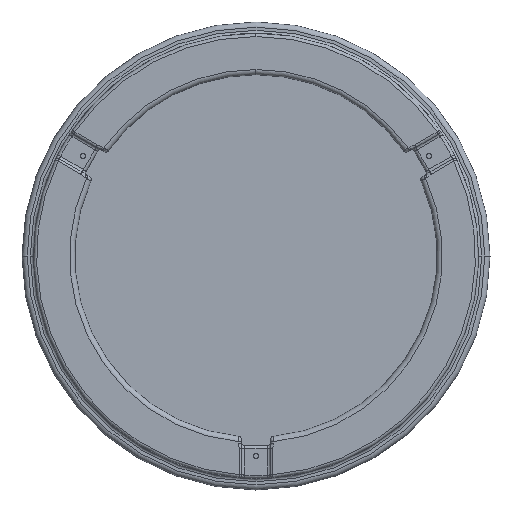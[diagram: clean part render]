
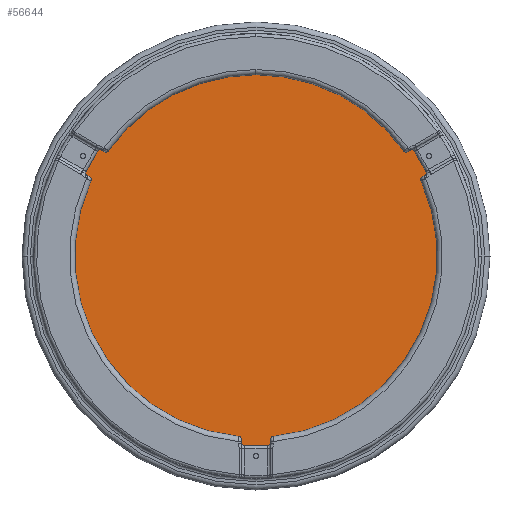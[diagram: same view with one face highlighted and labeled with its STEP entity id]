
A CAD part, front view. The second image highlights one B-rep face of the part: STEP entity #56644.
In plain terms, the highlighted planar face has unit normal (0, -1, 0).
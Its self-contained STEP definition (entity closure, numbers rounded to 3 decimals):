
#6601 = DIRECTION ( 'NONE',  ( -0.547, 0., 0.837 ) ) ;
#7088 = EDGE_LOOP ( 'NONE', ( #17147, #192539 ) ) ;
#8787 = CARTESIAN_POINT ( 'NONE',  ( -71.142, 703.967, 955.719 ) ) ;
#10492 = VERTEX_POINT ( 'NONE', #8787 ) ;
#13807 = CARTESIAN_POINT ( 'NONE',  ( -68.407, 703.967, 951.533 ) ) ;
#14340 = DIRECTION ( 'NONE',  ( 0., -1., 0. ) ) ;
#17147 = ORIENTED_EDGE ( 'NONE', *, *, #64092, .F. ) ;
#25039 = DIRECTION ( 'NONE',  ( -0.547, 0., 0.837 ) ) ;
#25041 = CARTESIAN_POINT ( 'NONE',  ( 601.241, 703.967, 990.644 ) ) ;
#25396 = DIRECTION ( 'NONE',  ( 0., -1., 0. ) ) ;
#29640 = CARTESIAN_POINT ( 'NONE',  ( 276.42, 703.967, 778.43 ) ) ;
#35158 = CARTESIAN_POINT ( 'NONE',  ( 276.42, 703.967, 778.43 ) ) ;
#44147 = EDGE_CURVE ( 'NONE', #129273, #100778, #182263, .T. ) ;
#48058 = DIRECTION ( 'NONE',  ( 0., -1., 0. ) ) ;
#53263 = CARTESIAN_POINT ( 'NONE',  ( -69.774, 703.967, 953.626 ) ) ;
#56644 = ADVANCED_FACE ( 'NONE', ( #147631, #256143, #185271, #101454 ), #163548, .T. ) ;
#57843 = AXIS2_PLACEMENT_3D ( 'NONE', #261861, #242991, #175024 ) ;
#64092 = EDGE_CURVE ( 'NONE', #219389, #69468, #245115, .T. ) ;
#64869 = CARTESIAN_POINT ( 'NONE',  ( 297.792, 703.967, 391.019 ) ) ;
#69468 = VERTEX_POINT ( 'NONE', #124527 ) ;
#69685 = AXIS2_PLACEMENT_3D ( 'NONE', #222793, #48058, #25039 ) ;
#71222 = AXIS2_PLACEMENT_3D ( 'NONE', #273727, #25396, #156692 ) ;
#74873 = DIRECTION ( 'NONE',  ( 0., -1., 0. ) ) ;
#84910 = DIRECTION ( 'NONE',  ( -0.547, 0., 0.837 ) ) ;
#86739 = EDGE_LOOP ( 'NONE', ( #271404, #106670 ) ) ;
#94786 = EDGE_CURVE ( 'NONE', #69468, #219389, #246558, .T. ) ;
#95801 = VERTEX_POINT ( 'NONE', #13807 ) ;
#100778 = VERTEX_POINT ( 'NONE', #145379 ) ;
#101454 = FACE_BOUND ( 'NONE', #211313, .T. ) ;
#103676 = CARTESIAN_POINT ( 'NONE',  ( 276.42, 703.967, 778.43 ) ) ;
#106670 = ORIENTED_EDGE ( 'NONE', *, *, #219056, .T. ) ;
#109234 = ORIENTED_EDGE ( 'NONE', *, *, #44147, .F. ) ;
#111376 = EDGE_CURVE ( 'NONE', #100778, #129273, #177748, .T. ) ;
#120802 = VERTEX_POINT ( 'NONE', #282124 ) ;
#120896 = ORIENTED_EDGE ( 'NONE', *, *, #218604, .F. ) ;
#124511 = DIRECTION ( 'NONE',  ( -0.547, 0., 0.837 ) ) ;
#124527 = CARTESIAN_POINT ( 'NONE',  ( 296.424, 703.967, 393.112 ) ) ;
#126925 = CARTESIAN_POINT ( 'NONE',  ( 299.159, 703.967, 388.926 ) ) ;
#129273 = VERTEX_POINT ( 'NONE', #217377 ) ;
#140750 = AXIS2_PLACEMENT_3D ( 'NONE', #103676, #14340, #84910 ) ;
#145379 = CARTESIAN_POINT ( 'NONE',  ( 607.531, 703.967, 981.017 ) ) ;
#145611 = EDGE_LOOP ( 'NONE', ( #120896, #225166 ) ) ;
#147631 = FACE_OUTER_BOUND ( 'NONE', #86739, .T. ) ;
#152955 = DIRECTION ( 'NONE',  ( 0., -1., 0. ) ) ;
#156692 = DIRECTION ( 'NONE',  ( -0.547, 0., 0.837 ) ) ;
#159746 = ORIENTED_EDGE ( 'NONE', *, *, #111376, .F. ) ;
#163548 = PLANE ( 'NONE',  #217678 ) ;
#175024 = DIRECTION ( 'NONE',  ( -0.547, 0., 0.837 ) ) ;
#177748 = CIRCLE ( 'NONE', #187058, 11.5 ) ;
#181205 = DIRECTION ( 'NONE',  ( 0., -1., 0. ) ) ;
#182263 = CIRCLE ( 'NONE', #57843, 11.5 ) ;
#185271 = FACE_BOUND ( 'NONE', #7088, .T. ) ;
#187058 = AXIS2_PLACEMENT_3D ( 'NONE', #25041, #199689, #261992 ) ;
#191004 = DIRECTION ( 'NONE',  ( 0., -1., 0. ) ) ;
#192539 = ORIENTED_EDGE ( 'NONE', *, *, #94786, .F. ) ;
#199689 = DIRECTION ( 'NONE',  ( 0., -1., 0. ) ) ;
#208071 = EDGE_CURVE ( 'NONE', #120802, #245401, #242342, .T. ) ;
#211313 = EDGE_LOOP ( 'NONE', ( #159746, #109234 ) ) ;
#217377 = CARTESIAN_POINT ( 'NONE',  ( 594.951, 703.967, 1000.272 ) ) ;
#217490 = EDGE_CURVE ( 'NONE', #10492, #95801, #220938, .T. ) ;
#217678 = AXIS2_PLACEMENT_3D ( 'NONE', #35158, #191004, #124511 ) ;
#218604 = EDGE_CURVE ( 'NONE', #95801, #10492, #231211, .T. ) ;
#219056 = EDGE_CURVE ( 'NONE', #245401, #120802, #254556, .T. ) ;
#219389 = VERTEX_POINT ( 'NONE', #126925 ) ;
#220938 = CIRCLE ( 'NONE', #285654, 2.5 ) ;
#222793 = CARTESIAN_POINT ( 'NONE',  ( -69.774, 703.967, 953.626 ) ) ;
#225166 = ORIENTED_EDGE ( 'NONE', *, *, #217490, .F. ) ;
#226668 = DIRECTION ( 'NONE',  ( -0.547, 0., 0.837 ) ) ;
#231211 = CIRCLE ( 'NONE', #69685, 2.5 ) ;
#234374 = CARTESIAN_POINT ( 'NONE',  ( 510.785, 703.967, 419.703 ) ) ;
#240728 = AXIS2_PLACEMENT_3D ( 'NONE', #29640, #181205, #6601 ) ;
#241143 = DIRECTION ( 'NONE',  ( -0.547, 0., 0.837 ) ) ;
#242342 = CIRCLE ( 'NONE', #140750, 428.5 ) ;
#242991 = DIRECTION ( 'NONE',  ( 0., -1., 0. ) ) ;
#245115 = CIRCLE ( 'NONE', #249673, 2.5 ) ;
#245401 = VERTEX_POINT ( 'NONE', #234374 ) ;
#246558 = CIRCLE ( 'NONE', #71222, 2.5 ) ;
#249673 = AXIS2_PLACEMENT_3D ( 'NONE', #64869, #152955, #241143 ) ;
#254556 = CIRCLE ( 'NONE', #240728, 428.5 ) ;
#256143 = FACE_BOUND ( 'NONE', #145611, .T. ) ;
#261861 = CARTESIAN_POINT ( 'NONE',  ( 601.241, 703.967, 990.644 ) ) ;
#261992 = DIRECTION ( 'NONE',  ( -0.547, 0., 0.837 ) ) ;
#271404 = ORIENTED_EDGE ( 'NONE', *, *, #208071, .T. ) ;
#273727 = CARTESIAN_POINT ( 'NONE',  ( 297.792, 703.967, 391.019 ) ) ;
#282124 = CARTESIAN_POINT ( 'NONE',  ( 42.054, 703.967, 1137.157 ) ) ;
#285654 = AXIS2_PLACEMENT_3D ( 'NONE', #53263, #74873, #226668 ) ;
